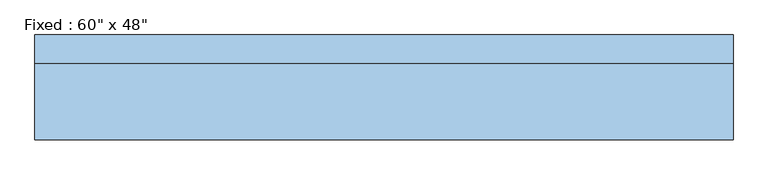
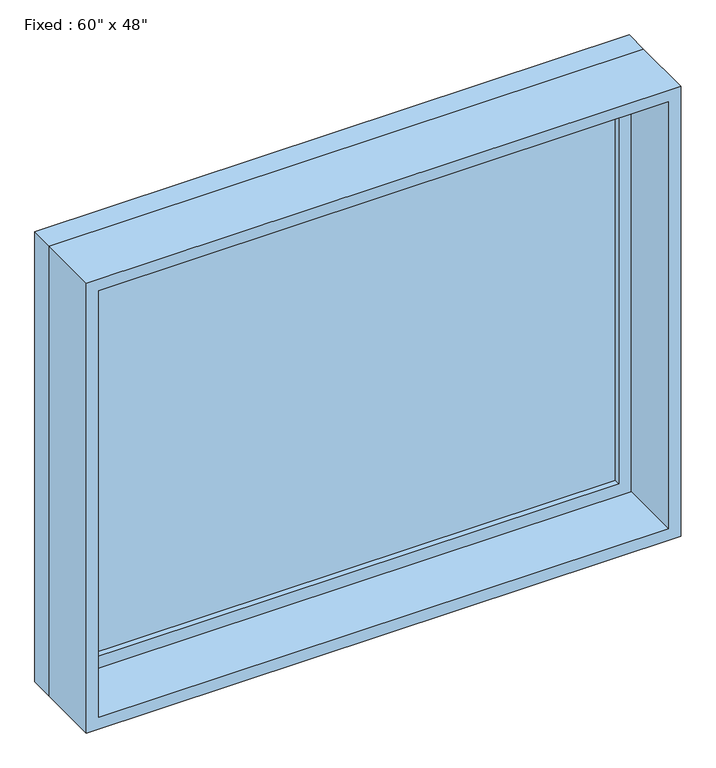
"""IFC4 building model written with IfcOpenShell, lengths in millimetres: window geometry."""

from ifc_helpers import new_model, si_unit, frame, origin, place, context, project, spatial, polyline, outline, extrude, source, transform, mapped, element, save


def window_145d3b12(model_context):
    return source(origin(), model_context, "Body", "SweptSolid", [
        extrude(outline(polyline([(660.4, 66.675), (-736.6, 66.675), (-736.6, 79.375), (660.4, 79.375), (660.4, 66.675)])), frame((0.0, 0.0, 977.9), z_axis=(0.0, 0.0, 1.0), x_axis=(1.0, 0.0, 0.0)), (0.0, 0.0, 1.0), 1092.2),
        extrude(outline(polyline([(2114.55, -781.05), (933.45, -781.05), (933.45, 704.85), (2114.55, 704.85), (2114.55, -781.05)]), holes=[polyline([(2070.1, -736.6), (2070.1, 660.4), (977.9, 660.4), (977.9, -736.6), (2070.1, -736.6)])]), frame((0.0, 50.8, 0.0), z_axis=(0.0, 1.0, 0.0), x_axis=(0.0, 0.0, 1.0)), (0.0, 0.0, 1.0), 44.45),
        extrude(outline(polyline([(2133.6, -800.1), (914.4, -800.1), (914.4, 723.9), (2133.6, 723.9), (2133.6, -800.1)]), holes=[polyline([(2101.85, -768.35), (2101.85, 692.15), (946.15, 692.15), (946.15, -768.35), (2101.85, -768.35)])]), frame((0.0, -114.3, 0.0), z_axis=(0.0, 1.0, 0.0), x_axis=(0.0, 0.0, 1.0)), (0.0, 0.0, 1.0), 165.1),
        extrude(outline(polyline([(2133.6, 723.9), (2133.6, -800.1), (914.4, -800.1), (914.4, 723.9), (2133.6, 723.9)]), holes=[polyline([(2114.55, 704.85), (933.45, 704.85), (933.45, -781.05), (2114.55, -781.05), (2114.55, 704.85)])]), frame((0.0, 50.8, 0.0), z_axis=(0.0, 1.0, 0.0), x_axis=(0.0, 0.0, 1.0)), (0.0, 0.0, 1.0), 63.5),
    ])


if __name__ == "__main__":
    model = new_model("IFC4")
    model_context = context("Model", 3, world=origin())
    ifc_project = project(units=[si_unit("LENGTHUNIT", "METRE", prefix="MILLI")], contexts=[model_context])
    site = spatial("IfcSite", under=ifc_project)
    building = spatial("IfcBuilding", under=site)
    placement = place(None, origin())
    window_shape = window_145d3b12(model_context)
    element("IfcWindow", 1, ObjectType="Fixed : 60\" x 48\"", at=placement, inside=building, context=model_context, shape_type="MappedRepresentation", body=[
        mapped(window_shape, transform((0.0, 0.0, 0.0), x_axis=(1.0, 0.0, 0.0), y_axis=(0.0, 1.0, 0.0), z_axis=(0.0, 0.0, 1.0))),
    ])
    save(model, "model.ifc")
